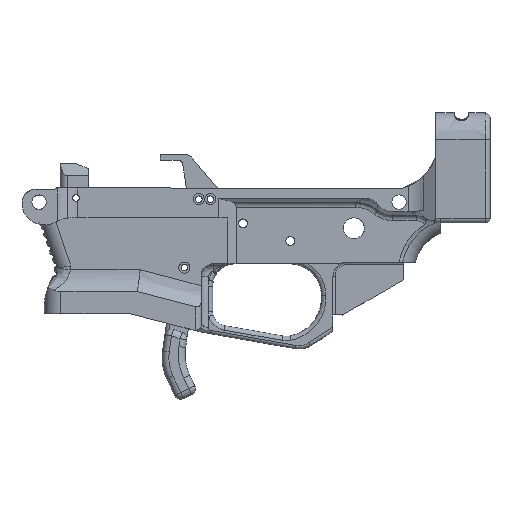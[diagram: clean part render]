
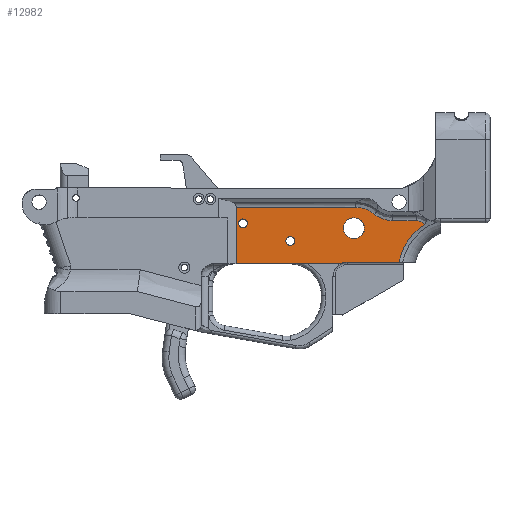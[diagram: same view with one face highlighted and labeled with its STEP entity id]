
A CAD part, left-side view. The second image highlights one B-rep face of the part: STEP entity #12982.
In plain terms, the highlighted planar face has unit normal (-1, 0, 0).
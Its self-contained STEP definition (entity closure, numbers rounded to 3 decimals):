
#237=FACE_BOUND('',#1882,.T.);
#238=FACE_BOUND('',#1883,.T.);
#239=FACE_BOUND('',#1884,.T.);
#363=PLANE('',#13883);
#647=CIRCLE('',#13878,6.35);
#649=CIRCLE('',#13884,1.981);
#650=CIRCLE('',#13885,4.763);
#651=CIRCLE('',#13886,1.981);
#1126=FACE_OUTER_BOUND('',#1881,.T.);
#1881=EDGE_LOOP('',(#9615,#9616,#9617,#9618,#9619,#9620,#9621,#9622,#9623,
#9624));
#1882=EDGE_LOOP('',(#9625));
#1883=EDGE_LOOP('',(#9626));
#1884=EDGE_LOOP('',(#9627));
#2745=B_SPLINE_CURVE_WITH_KNOTS('',3,(#24889,#24890,#24891,#24892,#24893,
#24894,#24895,#24896,#24897,#24898,#24899,#24900,#24901),.UNSPECIFIED.,
 .F.,.F.,(4,3,3,3,4),(1.967,2.204,2.953,
3.327,4.075),.UNSPECIFIED.);
#2746=B_SPLINE_CURVE_WITH_KNOTS('',3,(#24903,#24904,#24905,#24906),
 .UNSPECIFIED.,.F.,.F.,(4,4),(-0.291,0.121),
 .UNSPECIFIED.);
#2747=B_SPLINE_CURVE_WITH_KNOTS('',3,(#24910,#24911,#24912,#24913),
 .UNSPECIFIED.,.F.,.F.,(4,4),(0.77,1.466),
 .UNSPECIFIED.);
#2748=B_SPLINE_CURVE_WITH_KNOTS('',3,(#24915,#24916,#24917,#24918,#24919),
 .UNSPECIFIED.,.F.,.F.,(4,1,4),(0.,0.394,0.92),
 .UNSPECIFIED.);
#3586=LINE('',#24866,#4501);
#3587=LINE('',#24872,#4502);
#3595=LINE('',#24887,#4510);
#3596=LINE('',#24908,#4511);
#3597=LINE('',#24920,#4512);
#4501=VECTOR('',#15692,10.);
#4502=VECTOR('',#15697,10.);
#4510=VECTOR('',#15709,10.);
#4511=VECTOR('',#15710,10.);
#4512=VECTOR('',#15711,10.);
#5605=VERTEX_POINT('',#24805);
#5606=VERTEX_POINT('',#24807);
#5612=VERTEX_POINT('',#24855);
#5614=VERTEX_POINT('',#24870);
#5615=VERTEX_POINT('',#24871);
#5621=VERTEX_POINT('',#24888);
#5622=VERTEX_POINT('',#24902);
#5623=VERTEX_POINT('',#24907);
#5624=VERTEX_POINT('',#24909);
#5625=VERTEX_POINT('',#24914);
#5626=VERTEX_POINT('',#24921);
#5627=VERTEX_POINT('',#24923);
#5628=VERTEX_POINT('',#24925);
#7131=EDGE_CURVE('',#5605,#5606,#647,.T.);
#7139=EDGE_CURVE('',#5612,#5605,#3586,.T.);
#7141=EDGE_CURVE('',#5614,#5615,#3587,.F.);
#7150=EDGE_CURVE('',#5606,#5614,#3595,.T.);
#7151=EDGE_CURVE('',#5621,#5612,#2745,.T.);
#7152=EDGE_CURVE('',#5622,#5621,#2746,.T.);
#7153=EDGE_CURVE('',#5623,#5622,#3596,.T.);
#7154=EDGE_CURVE('',#5624,#5623,#2747,.T.);
#7155=EDGE_CURVE('',#5625,#5624,#2748,.T.);
#7156=EDGE_CURVE('',#5615,#5625,#3597,.T.);
#7157=EDGE_CURVE('',#5626,#5626,#649,.T.);
#7158=EDGE_CURVE('',#5627,#5627,#650,.T.);
#7159=EDGE_CURVE('',#5628,#5628,#651,.T.);
#9615=ORIENTED_EDGE('',*,*,#7150,.F.);
#9616=ORIENTED_EDGE('',*,*,#7131,.F.);
#9617=ORIENTED_EDGE('',*,*,#7139,.F.);
#9618=ORIENTED_EDGE('',*,*,#7151,.F.);
#9619=ORIENTED_EDGE('',*,*,#7152,.F.);
#9620=ORIENTED_EDGE('',*,*,#7153,.F.);
#9621=ORIENTED_EDGE('',*,*,#7154,.F.);
#9622=ORIENTED_EDGE('',*,*,#7155,.F.);
#9623=ORIENTED_EDGE('',*,*,#7156,.F.);
#9624=ORIENTED_EDGE('',*,*,#7141,.F.);
#9625=ORIENTED_EDGE('',*,*,#7157,.F.);
#9626=ORIENTED_EDGE('',*,*,#7158,.F.);
#9627=ORIENTED_EDGE('',*,*,#7159,.F.);
#12982=ADVANCED_FACE('',(#1126,#237,#238,#239),#363,.T.);
#13878=AXIS2_PLACEMENT_3D('',#24808,#15685,#15686);
#13883=AXIS2_PLACEMENT_3D('',#24886,#15707,#15708);
#13884=AXIS2_PLACEMENT_3D('',#24922,#15712,#15713);
#13885=AXIS2_PLACEMENT_3D('',#24924,#15714,#15715);
#13886=AXIS2_PLACEMENT_3D('',#24926,#15716,#15717);
#15685=DIRECTION('center_axis',(-1.,0.,
0.));
#15686=DIRECTION('ref_axis',(0.,-0.707,0.707));
#15692=DIRECTION('',(0.,1.,0.));
#15697=DIRECTION('',(0.,0.,-1.));
#15707=DIRECTION('center_axis',(-1.,0.,
0.));
#15708=DIRECTION('ref_axis',(0.,0.,1.));
#15709=DIRECTION('',(0.,1.,0.));
#15710=DIRECTION('',(0.,-1.,0.));
#15711=DIRECTION('',(0.,-1.,0.));
#15712=DIRECTION('center_axis',(-1.,0.,
0.));
#15713=DIRECTION('ref_axis',(0.,0.,
-1.));
#15714=DIRECTION('center_axis',(-1.,0.,
0.));
#15715=DIRECTION('ref_axis',(0.,-0.707,0.707));
#15716=DIRECTION('center_axis',(-1.,0.,
0.));
#15717=DIRECTION('ref_axis',(0.,0.,
-1.));
#24805=CARTESIAN_POINT('',(10.784,-65.211,-11.94));
#24807=CARTESIAN_POINT('',(10.783,-62.388,-12.602));
#24808=CARTESIAN_POINT('Origin',(10.784,-65.211,-18.29));
#24855=CARTESIAN_POINT('',(10.794,-88.609,-11.94));
#24866=CARTESIAN_POINT('',(10.74,36.339,-11.94));
#24870=CARTESIAN_POINT('',(10.762,-15.28,-12.602));
#24871=CARTESIAN_POINT('',(10.763,-15.28,12.766));
#24872=CARTESIAN_POINT('',(10.765,-15.28,40.306));
#24886=CARTESIAN_POINT('Origin',(10.757,-0.604,21.674));
#24887=CARTESIAN_POINT('',(10.756,-0.247,-12.602));
#24888=CARTESIAN_POINT('',(10.8,-99.954,5.071));
#24889=CARTESIAN_POINT('Ctrl Pts',(10.799,-99.955,5.071));
#24890=CARTESIAN_POINT('Ctrl Pts',(10.799,-99.298,4.641));
#24891=CARTESIAN_POINT('Ctrl Pts',(10.798,-98.662,4.183));
#24892=CARTESIAN_POINT('Ctrl Pts',(10.798,-98.046,3.695));
#24893=CARTESIAN_POINT('Ctrl Pts',(10.797,-96.101,2.152));
#24894=CARTESIAN_POINT('Ctrl Pts',(10.796,-94.365,0.314));
#24895=CARTESIAN_POINT('Ctrl Pts',(10.796,-92.932,-1.713));
#24896=CARTESIAN_POINT('Ctrl Pts',(10.795,-92.216,-2.726));
#24897=CARTESIAN_POINT('Ctrl Pts',(10.795,-91.576,-3.787));
#24898=CARTESIAN_POINT('Ctrl Pts',(10.795,-91.012,-4.893));
#24899=CARTESIAN_POINT('Ctrl Pts',(10.794,-89.886,-7.106));
#24900=CARTESIAN_POINT('Ctrl Pts',(10.793,-89.067,-9.503));
#24901=CARTESIAN_POINT('Ctrl Pts',(10.793,-88.61,-11.94));
#24902=CARTESIAN_POINT('',(10.798,-96.333,6.756));
#24903=CARTESIAN_POINT('Ctrl Pts',(10.798,-96.333,6.756));
#24904=CARTESIAN_POINT('Ctrl Pts',(10.799,-97.704,6.756));
#24905=CARTESIAN_POINT('Ctrl Pts',(10.8,-99.049,6.102));
#24906=CARTESIAN_POINT('Ctrl Pts',(10.8,-99.954,5.071));
#24907=CARTESIAN_POINT('',(10.794,-85.665,6.757));
#24908=CARTESIAN_POINT('',(10.774,-40.969,6.763));
#24909=CARTESIAN_POINT('',(10.79,-77.589,9.686));
#24910=CARTESIAN_POINT('Ctrl Pts',(10.79,-77.589,9.686));
#24911=CARTESIAN_POINT('Ctrl Pts',(10.791,-79.832,7.813));
#24912=CARTESIAN_POINT('Ctrl Pts',(10.793,-82.743,6.758));
#24913=CARTESIAN_POINT('Ctrl Pts',(10.794,-85.665,6.757));
#24914=CARTESIAN_POINT('',(10.787,-69.114,12.759));
#24915=CARTESIAN_POINT('Ctrl Pts',(10.787,-69.114,12.759));
#24916=CARTESIAN_POINT('Ctrl Pts',(10.787,-70.429,12.759));
#24917=CARTESIAN_POINT('Ctrl Pts',(10.789,-73.503,12.322));
#24918=CARTESIAN_POINT('Ctrl Pts',(10.79,-76.243,10.809));
#24919=CARTESIAN_POINT('Ctrl Pts',(10.79,-77.589,9.686));
#24920=CARTESIAN_POINT('',(10.772,-36.113,12.763));
#24921=CARTESIAN_POINT('',(10.773,-39.659,-0.435));
#24922=CARTESIAN_POINT('Origin',(10.773,-39.659,-2.417));
#24923=CARTESIAN_POINT('',(10.784,-64.879,-0.016));
#24924=CARTESIAN_POINT('Origin',(10.786,-68.247,3.351));
#24925=CARTESIAN_POINT('',(10.764,-18.384,7.54));
#24926=CARTESIAN_POINT('Origin',(10.764,-18.384,5.559));
